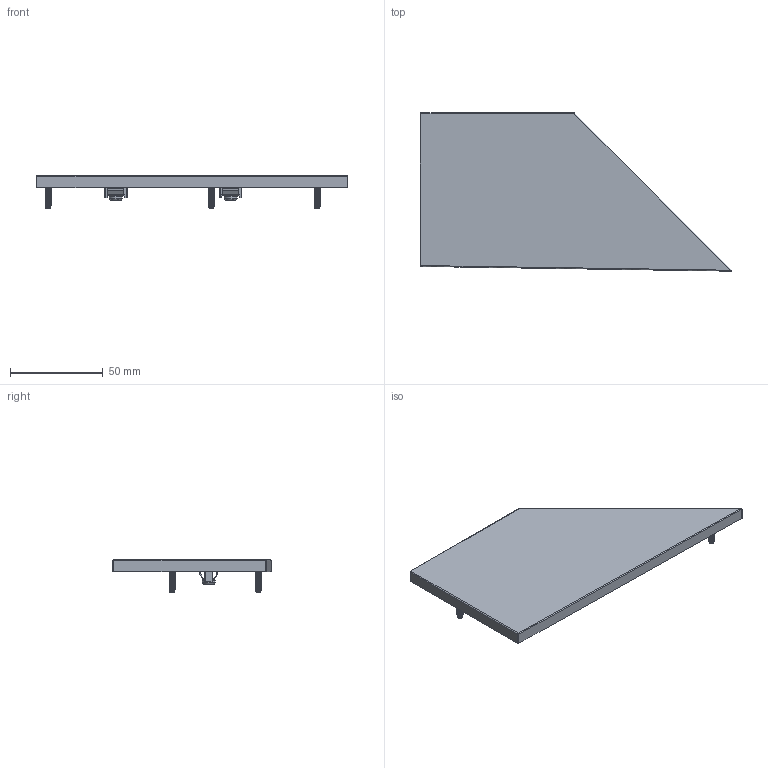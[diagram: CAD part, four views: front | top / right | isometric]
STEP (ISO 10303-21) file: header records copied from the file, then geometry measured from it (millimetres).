
FILE_DESCRIPTION (( 'STEP AP203' ), '1' );
FILE_NAME ('TROV SLIM KNIFE EDGE LEFT ENDCAP.STEP', '2023-05-24T20:42:47', ( '' ), ( '' ), 'SwSTEP 2.0', 'SolidWorks 2022', '' );
FILE_SCHEMA (( 'CONFIG_CONTROL_DESIGN' ));
Length unit declared in the file: millimetre
Products named in the file (7): SCW-000393-00_94209A090; BKT-000316-00; SCW-000357-00_94209A080; PLA-000090-00; MCP-000419-00_MCP-000419-00; ASY-006857-00; TROV SLIM KNIFE EDGE LEFT ENDCAP
Assembly tree (10 placements, depth 3):
  TROV SLIM KNIFE EDGE LEFT ENDCAP
    PLA-000090-00
    ASY-006857-00
      MCP-000419-00_MCP-000419-00
      BKT-000316-00  x2
      SCW-000357-00_94209A080  x2
    SCW-000393-00_94209A090  x3
Bounding box: 168.28 x 85.42 x 17.7 mm (x, y, z)
Volume: 44830.9 mm3; surface area: 47536.2 mm2
Topology: 9 solids, 9 shells, 904 faces, 2552 edges, 1674 vertices
Faces by surface type: cylinder 689, plane 142, cone 39, torus 20, bspline 11, sphere 3
Entity records: 22293 total; most frequent: CARTESIAN_POINT 10696, ORIENTED_EDGE 2478, DIRECTION 1999, EDGE_CURVE 1239, VERTEX_POINT 812, AXIS2_PLACEMENT_3D 733, VECTOR 533, LINE 533
